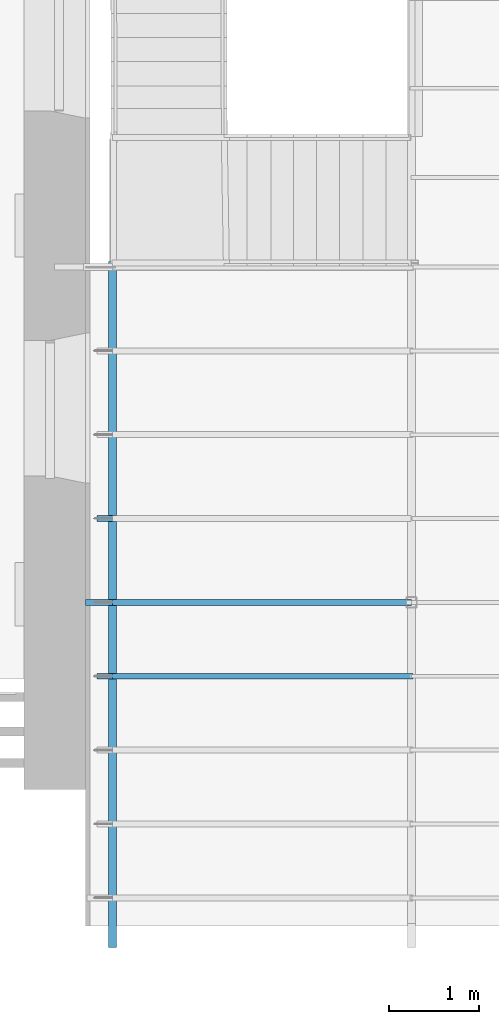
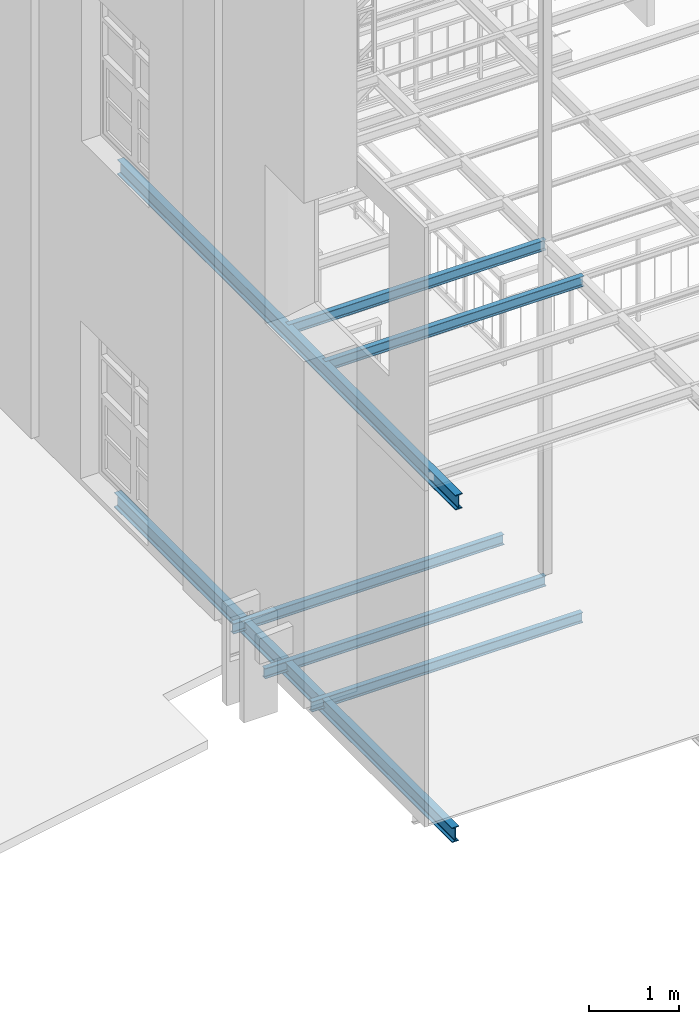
# One storey, part 2 of 33: 7 beams.
"""IFC2X3 building model written with IfcOpenShell, lengths in metres."""

from ifc_helpers import new_model, entity, si_unit, converted_unit, derived_unit, direction, frame, frame_2d, origin, place, context, subcontext, project, spatial, polyline, circle_curve, parameter, trimmed, segment, composite_curve, outline, extrude, material, type_object, element, save


model = new_model("IFC2X3")

# Units and contexts
model_context = context("Model", 3, precision=1e-05, world=origin(), true_north=direction((6.12303176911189e-17, 1.0)))
body_context = subcontext(model_context, "Body", "Model", "MODEL_VIEW")
ifc_project = project(units=[si_unit("LENGTHUNIT", "METRE"), si_unit("AREAUNIT", "SQUARE_METRE"), si_unit("VOLUMEUNIT", "CUBIC_METRE"), converted_unit("PLANEANGLEUNIT", "DEGREE", entity("IfcRatioMeasure", 0.0174532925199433), si_unit("PLANEANGLEUNIT", "RADIAN"), dimensions=[0, 0, 0, 0, 0, 0, 0]), si_unit("MASSUNIT", "GRAM", prefix="KILO"), derived_unit("MASSDENSITYUNIT", [(si_unit("MASSUNIT", "GRAM", prefix="KILO"), 1), (si_unit("LENGTHUNIT", "METRE"), -3)]), derived_unit("MOMENTOFINERTIAUNIT", [(si_unit("LENGTHUNIT", "METRE"), 4)]), si_unit("TIMEUNIT", "SECOND"), si_unit("FREQUENCYUNIT", "HERTZ"), si_unit("THERMODYNAMICTEMPERATUREUNIT", "DEGREE_CELSIUS"), derived_unit("THERMALTRANSMITTANCEUNIT", [(si_unit("MASSUNIT", "GRAM", prefix="KILO"), 1), (si_unit("THERMODYNAMICTEMPERATUREUNIT", "KELVIN"), -1), (si_unit("TIMEUNIT", "SECOND"), -3)]), derived_unit("VOLUMETRICFLOWRATEUNIT", [(si_unit("LENGTHUNIT", "METRE"), 3), (si_unit("TIMEUNIT", "SECOND"), -1)]), si_unit("ELECTRICCURRENTUNIT", "AMPERE"), si_unit("ELECTRICVOLTAGEUNIT", "VOLT"), si_unit("POWERUNIT", "WATT"), si_unit("FORCEUNIT", "NEWTON", prefix="KILO"), si_unit("ILLUMINANCEUNIT", "LUX"), si_unit("LUMINOUSFLUXUNIT", "LUMEN"), si_unit("LUMINOUSINTENSITYUNIT", "CANDELA"), derived_unit("USERDEFINED", [(si_unit("MASSUNIT", "GRAM", prefix="KILO"), -1), (si_unit("LENGTHUNIT", "METRE"), -2), (si_unit("TIMEUNIT", "SECOND"), 3), (si_unit("LUMINOUSFLUXUNIT", "LUMEN"), 1)]), derived_unit("LINEARVELOCITYUNIT", [(si_unit("LENGTHUNIT", "METRE"), 1), (si_unit("TIMEUNIT", "SECOND"), -1)]), si_unit("PRESSUREUNIT", "PASCAL"), derived_unit("USERDEFINED", [(si_unit("LENGTHUNIT", "METRE"), -2), (si_unit("MASSUNIT", "GRAM", prefix="KILO"), 1), (si_unit("TIMEUNIT", "SECOND"), -2)]), derived_unit("LINEARFORCEUNIT", [(si_unit("MASSUNIT", "GRAM", prefix="KILO"), 1), (si_unit("LENGTHUNIT", "METRE"), 1), (si_unit("TIMEUNIT", "SECOND"), -2), (si_unit("LENGTHUNIT", "METRE"), -1)]), derived_unit("PLANARFORCEUNIT", [(si_unit("MASSUNIT", "GRAM", prefix="KILO"), 1), (si_unit("LENGTHUNIT", "METRE"), 1), (si_unit("TIMEUNIT", "SECOND"), -2), (si_unit("LENGTHUNIT", "METRE"), -2)])], contexts=[model_context])

# Site, building, storey
site_placement = place(None, origin())
site = spatial("IfcSite", under=ifc_project, at=site_placement, Name="Superficie", CompositionType="ELEMENT")
building_placement = place(site_placement, origin())
building = spatial("IfcBuilding", under=site, at=building_placement, Name="Telegestiones", CompositionType="ELEMENT")
storey_placement = place(building_placement, frame((0.0, 0.0, 4.94)))
storey = spatial("IfcBuildingStorey", under=building, at=storey_placement, Name="Nivel 1_NPT", CompositionType="ELEMENT", Elevation=4.94)

# Beams
ifc_material = material(Name="Metal - Acero - 345 MPa")
beam_type_1 = type_object("IfcBeamType", Name="IPN - Secciones en I con alas cónicas:IPN 200", PredefinedType="NOTDEFINED")
beam_1_placement = place(storey_placement, frame((6.33481262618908, 1.48459406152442, 0.0), z_axis=(0.0, 0.0, 1.0), x_axis=(0.0, -1.0, 0.0)))
element("IfcBeam", 1, at=beam_1_placement, inside=storey, type_object=beam_type_1, material=ifc_material, Name="IPN - Secciones en I con alas cónicas:IPN 200", ObjectType="IPN - Secciones en I con alas cónicas:IPN 200", context=body_context, shape_type="SweptSolid", body=[
    extrude(outline(composite_curve([segment(polyline([(0.0957638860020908, -0.0450000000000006), (0.100000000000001, -0.0450000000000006)]), True, "CONTINUOUS"), segment(polyline([(0.100000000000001, -0.0450000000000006), (0.100000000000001, 0.0449999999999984)]), True, "CONTINUOUS"), segment(polyline([(0.100000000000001, 0.0449999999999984), (0.0957638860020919, 0.0449999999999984)]), True, "CONTINUOUS"), segment(trimmed(circle_curve(frame_2d((0.095763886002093, 0.0404999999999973), x_axis=(0.0, 1.0)), 0.00450000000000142), [parameter(0.0)], [parameter(82.0303896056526)], True, "PARAMETER"), True, "CONTINUOUS"), segment(polyline([(0.0913073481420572, 0.0411239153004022), (0.0869794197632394, 0.01021014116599)]), True, "CONTINUOUS"), segment(trimmed(circle_curve(frame_2d((0.0795518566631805, 0.0112499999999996), x_axis=(0.990341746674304, -0.138647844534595)), 0.00750000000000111), [parameter(277.96961039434)], [parameter(0.0)], True, "PARAMETER"), False, "CONTINUOUS"), segment(polyline([(0.0795518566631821, 0.00374999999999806), (-0.079551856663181, 0.00374999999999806)]), True, "CONTINUOUS"), segment(trimmed(circle_curve(frame_2d((-0.07955185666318, 0.0112500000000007), x_axis=(0.0, -1.0)), 0.00750000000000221), [parameter(277.96961039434)], [parameter(0.0)], True, "PARAMETER"), False, "CONTINUOUS"), segment(polyline([(-0.0869794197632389, 0.01021014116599), (-0.0913073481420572, 0.0411239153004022)]), True, "CONTINUOUS"), segment(trimmed(circle_curve(frame_2d((-0.0957638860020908, 0.0404999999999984), x_axis=(0.990341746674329, 0.138647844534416)), 0.00450000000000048), [parameter(0.0)], [parameter(82.0303896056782)], True, "PARAMETER"), True, "CONTINUOUS"), segment(polyline([(-0.0957638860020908, 0.0449999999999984), (-0.0999999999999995, 0.0449999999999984)]), True, "CONTINUOUS"), segment(polyline([(-0.0999999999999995, 0.0449999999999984), (-0.0999999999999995, -0.0450000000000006)]), True, "CONTINUOUS"), segment(polyline([(-0.0999999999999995, -0.0450000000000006), (-0.0957638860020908, -0.0450000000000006)]), True, "CONTINUOUS"), segment(trimmed(circle_curve(frame_2d((-0.0957638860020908, -0.0405000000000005), x_axis=(0.0, -1.0)), 0.00450000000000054), [parameter(0.0)], [parameter(82.0303896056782)], True, "PARAMETER"), True, "CONTINUOUS"), segment(polyline([(-0.0913073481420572, -0.0411239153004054), (-0.0869794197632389, -0.0102101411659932)]), True, "CONTINUOUS"), segment(trimmed(circle_curve(frame_2d((-0.07955185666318, -0.0112500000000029), x_axis=(-0.990341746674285, 0.138647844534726)), 0.00750000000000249), [parameter(277.969610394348)], [parameter(0.0)], True, "PARAMETER"), False, "CONTINUOUS"), segment(polyline([(-0.079551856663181, -0.00375000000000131), (0.079551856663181, -0.00375000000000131)]), True, "CONTINUOUS"), segment(trimmed(circle_curve(frame_2d((0.0795518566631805, -0.0112500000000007), x_axis=(0.0, 1.0)), 0.0075000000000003), [parameter(277.969610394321)], [parameter(0.0)], True, "PARAMETER"), False, "CONTINUOUS"), segment(polyline([(0.0869794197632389, -0.0102101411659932), (0.0913073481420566, -0.0411239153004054)]), True, "CONTINUOUS"), segment(trimmed(circle_curve(frame_2d((0.0957638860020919, -0.0404999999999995), x_axis=(-0.9903417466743, -0.138647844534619)), 0.00450000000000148), [parameter(0.0)], [parameter(82.0303896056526)], True, "PARAMETER"), True, "CONTINUOUS")], self_intersect=False)), frame((-0.0595062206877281, 0.0, -0.130000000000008), z_axis=(1.0, 0.0, 0.0), x_axis=(0.0, 0.0, -1.0)), (0.0, 0.0, 1.0), 7.51522731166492),
])
beam_2_placement = place(storey_placement, frame((6.33481262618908, 1.48459406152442, 4.56), z_axis=(0.0, 0.0, 1.0), x_axis=(0.0, -1.0, 0.0)))
element("IfcBeam", 2, at=beam_2_placement, inside=storey, type_object=beam_type_1, material=ifc_material, Name="IPN - Secciones en I con alas cónicas:IPN 200", ObjectType="IPN - Secciones en I con alas cónicas:IPN 200", context=body_context, shape_type="SweptSolid", body=[
    extrude(outline(composite_curve([segment(polyline([(0.0957638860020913, -0.0450000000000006), (0.100000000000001, -0.0450000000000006)]), True, "CONTINUOUS"), segment(polyline([(0.100000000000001, -0.0450000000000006), (0.100000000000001, 0.0449999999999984)]), True, "CONTINUOUS"), segment(polyline([(0.100000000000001, 0.0449999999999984), (0.0957638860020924, 0.0449999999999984)]), True, "CONTINUOUS"), segment(trimmed(circle_curve(frame_2d((0.0957638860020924, 0.0404999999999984), x_axis=(0.0, 1.0)), 0.00450000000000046), [parameter(0.0)], [parameter(82.0303896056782)], True, "PARAMETER"), True, "CONTINUOUS"), segment(polyline([(0.0913073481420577, 0.0411239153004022), (0.0869794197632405, 0.01021014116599)]), True, "CONTINUOUS"), segment(trimmed(circle_curve(frame_2d((0.0795518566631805, 0.0112500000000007), x_axis=(0.990341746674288, -0.138647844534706)), 0.00750000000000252), [parameter(277.969610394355)], [parameter(0.0)], True, "PARAMETER"), False, "CONTINUOUS"), segment(polyline([(0.0795518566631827, 0.00374999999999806), (-0.0795518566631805, 0.00374999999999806)]), True, "CONTINUOUS"), segment(trimmed(circle_curve(frame_2d((-0.0795518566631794, 0.0112500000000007), x_axis=(0.0, -1.0)), 0.00750000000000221), [parameter(277.96961039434)], [parameter(0.0)], True, "PARAMETER"), False, "CONTINUOUS"), segment(polyline([(-0.0869794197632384, 0.01021014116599), (-0.0913073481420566, 0.0411239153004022)]), True, "CONTINUOUS"), segment(trimmed(circle_curve(frame_2d((-0.0957638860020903, 0.0404999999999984), x_axis=(0.990341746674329, 0.138647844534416)), 0.00450000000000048), [parameter(0.0)], [parameter(82.0303896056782)], True, "PARAMETER"), True, "CONTINUOUS"), segment(polyline([(-0.0957638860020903, 0.0449999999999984), (-0.0999999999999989, 0.0449999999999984)]), True, "CONTINUOUS"), segment(polyline([(-0.0999999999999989, 0.0449999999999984), (-0.0999999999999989, -0.0450000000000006)]), True, "CONTINUOUS"), segment(polyline([(-0.0999999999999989, -0.0450000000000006), (-0.0957638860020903, -0.0450000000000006)]), True, "CONTINUOUS"), segment(trimmed(circle_curve(frame_2d((-0.0957638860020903, -0.0405000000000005), x_axis=(0.0, -1.0)), 0.00450000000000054), [parameter(0.0)], [parameter(82.0303896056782)], True, "PARAMETER"), True, "CONTINUOUS"), segment(polyline([(-0.0913073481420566, -0.0411239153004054), (-0.0869794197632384, -0.0102101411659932)]), True, "CONTINUOUS"), segment(trimmed(circle_curve(frame_2d((-0.0795518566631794, -0.0112500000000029), x_axis=(-0.990341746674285, 0.138647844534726)), 0.00750000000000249), [parameter(277.969610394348)], [parameter(0.0)], True, "PARAMETER"), False, "CONTINUOUS"), segment(polyline([(-0.0795518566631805, -0.00375000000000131), (0.0795518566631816, -0.00375000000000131)]), True, "CONTINUOUS"), segment(trimmed(circle_curve(frame_2d((0.0795518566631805, -0.0112500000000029), x_axis=(0.0, 1.0)), 0.00750000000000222), [parameter(277.96961039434)], [parameter(0.0)], True, "PARAMETER"), False, "CONTINUOUS"), segment(polyline([(0.0869794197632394, -0.0102101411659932), (0.0913073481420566, -0.0411239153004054)]), True, "CONTINUOUS"), segment(trimmed(circle_curve(frame_2d((0.0957638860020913, -0.0405000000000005), x_axis=(-0.990341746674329, -0.138647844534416)), 0.00450000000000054), [parameter(0.0)], [parameter(82.0303896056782)], True, "PARAMETER"), True, "CONTINUOUS")], self_intersect=False)), frame((0.00849341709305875, 0.0, -0.130000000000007), z_axis=(1.0, 0.0, 0.0), x_axis=(0.0, 0.0, -1.0)), (0.0, 0.0, 1.0), 7.52197435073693),
])
beam_type_2 = type_object("IfcBeamType", Name="IPN - Secciones en I con alas cónicas:IPN 140", PredefinedType="NOTDEFINED")
beam_3_placement = place(storey_placement, frame((6.30181262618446, -2.22639277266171, 0.0)))
element("IfcBeam", 3, at=beam_3_placement, inside=storey, type_object=beam_type_2, material=ifc_material, Name="IPN - Secciones en I con alas cónicas:IPN 140", ObjectType="IPN - Secciones en I con alas cónicas:IPN 140", context=body_context, shape_type="SweptSolid", body=[
    extrude(outline(composite_curve([segment(polyline([(0.0666671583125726, -0.0330000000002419), (0.0699999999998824, -0.0330000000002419)]), True, "CONTINUOUS"), segment(polyline([(0.0699999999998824, -0.0330000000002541), (0.0700000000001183, 0.0329999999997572)]), True, "CONTINUOUS"), segment(polyline([(0.0700000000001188, 0.0329999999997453), (0.0666671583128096, 0.0329999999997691)]), True, "CONTINUOUS"), segment(trimmed(circle_curve(frame_2d((0.0666671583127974, 0.0295999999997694), x_axis=(0.0, 1.0)), 0.00339999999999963), [parameter(0.0)], [parameter(82.0303896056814)], True, "PARAMETER"), True, "CONTINUOUS"), segment(polyline([(0.0632999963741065, 0.030071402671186), (0.0601763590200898, 0.00775970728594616)]), True, "CONTINUOUS"), segment(trimmed(circle_curve(frame_2d((0.0545314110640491, 0.0085499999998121), x_axis=(0.990341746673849, -0.138647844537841)), 0.0056999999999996), [parameter(277.969610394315)], [parameter(0.0)], True, "PARAMETER"), False, "CONTINUOUS"), segment(polyline([(0.0545314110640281, 0.00284999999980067), (-0.0545314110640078, 0.00285000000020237)]), True, "CONTINUOUS"), segment(trimmed(circle_curve(frame_2d((-0.0545314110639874, 0.00855000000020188), x_axis=(0.0, -1.0)), 0.00569999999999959), [parameter(277.969610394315)], [parameter(0.0)], True, "PARAMETER"), False, "CONTINUOUS"), segment(polyline([(-0.0601763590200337, 0.00775970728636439), (-0.0632999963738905, 0.0300714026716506)]), True, "CONTINUOUS"), segment(trimmed(circle_curve(frame_2d((-0.0666671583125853, 0.0296000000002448), x_axis=(0.990341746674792, 0.13864784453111)), 0.00340000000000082), [parameter(0.0)], [parameter(82.0303896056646)], True, "PARAMETER"), True, "CONTINUOUS"), segment(polyline([(-0.0666671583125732, 0.0330000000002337), (-0.0699999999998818, 0.0330000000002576)]), True, "CONTINUOUS"), segment(polyline([(-0.0699999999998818, 0.0330000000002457), (-0.0700000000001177, -0.0329999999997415)]), True, "CONTINUOUS"), segment(polyline([(-0.0700000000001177, -0.0329999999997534), (-0.066667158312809, -0.0329999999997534)]), True, "CONTINUOUS"), segment(trimmed(circle_curve(frame_2d((-0.0666671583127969, -0.0295999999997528), x_axis=(0.0, -1.0)), 0.00340000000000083), [parameter(0.0)], [parameter(82.0303896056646)], True, "PARAMETER"), True, "CONTINUOUS"), segment(polyline([(-0.0632999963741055, -0.0300714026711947), (-0.0601763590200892, -0.00775970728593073)]), True, "CONTINUOUS"), segment(trimmed(circle_curve(frame_2d((-0.0545314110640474, -0.00854999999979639), x_axis=(-0.990341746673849, 0.138647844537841)), 0.00569999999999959), [parameter(277.969610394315)], [parameter(0.0)], True, "PARAMETER"), False, "CONTINUOUS"), segment(polyline([(-0.054531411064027, -0.00284999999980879), (0.0545314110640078, -0.00285000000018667)]), True, "CONTINUOUS"), segment(trimmed(circle_curve(frame_2d((0.0545314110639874, -0.00855000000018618), x_axis=(0.0, 1.0)), 0.0056999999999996), [parameter(277.969610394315)], [parameter(0.0)], True, "PARAMETER"), False, "CONTINUOUS"), segment(polyline([(0.0601763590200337, -0.00775970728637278), (0.0632999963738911, -0.0300714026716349)]), True, "CONTINUOUS"), segment(trimmed(circle_curve(frame_2d((0.0666671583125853, -0.0296000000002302), x_axis=(-0.990341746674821, -0.138647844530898)), 0.00340000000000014), [parameter(0.0)], [parameter(82.0303896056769)], True, "PARAMETER"), True, "CONTINUOUS")], self_intersect=False)), frame((-0.265999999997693, 0.0, -0.100000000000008), z_axis=(1.0, 0.0, 0.0), x_axis=(0.0, 0.0, -1.0)), (0.0, 0.0, 1.0), 3.609),
])
beam_4_placement = place(storey_placement, frame((6.16481262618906, -1.29864606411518, 0.0)))
element("IfcBeam", 4, at=beam_4_placement, inside=storey, type_object=beam_type_2, material=ifc_material, Name="IPN - Secciones en I con alas cónicas:IPN 140", ObjectType="IPN - Secciones en I con alas cónicas:IPN 140", context=body_context, shape_type="SweptSolid", body=[
    extrude(outline(composite_curve([segment(polyline([(0.0666671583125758, -0.033000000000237), (0.0699999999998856, -0.033000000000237)]), True, "CONTINUOUS"), segment(polyline([(0.0699999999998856, -0.0330000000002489), (0.0700000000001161, 0.0329999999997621)]), True, "CONTINUOUS"), segment(polyline([(0.0700000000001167, 0.0329999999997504), (0.0666671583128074, 0.0329999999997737)]), True, "CONTINUOUS"), segment(trimmed(circle_curve(frame_2d((0.0666671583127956, 0.029599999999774), x_axis=(0.0, 1.0)), 0.00339999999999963), [parameter(0.0)], [parameter(82.0303896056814)], True, "PARAMETER"), True, "CONTINUOUS"), segment(polyline([(0.0632999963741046, 0.0300714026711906), (0.0601763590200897, 0.00775970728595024)]), True, "CONTINUOUS"), segment(trimmed(circle_curve(frame_2d((0.0545314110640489, 0.00854999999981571), x_axis=(0.99034174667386, -0.138647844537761)), 0.0056999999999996), [parameter(277.969610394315)], [parameter(0.0)], True, "PARAMETER"), False, "CONTINUOUS"), segment(polyline([(0.0545314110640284, 0.00284999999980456), (-0.0545314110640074, 0.00285000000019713)]), True, "CONTINUOUS"), segment(trimmed(circle_curve(frame_2d((-0.0545314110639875, 0.00855000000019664), x_axis=(0.0, -1.0)), 0.00569999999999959), [parameter(277.969610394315)], [parameter(0.0)], True, "PARAMETER"), False, "CONTINUOUS"), segment(polyline([(-0.0601763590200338, 0.00775970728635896), (-0.0632999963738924, 0.0300714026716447)]), True, "CONTINUOUS"), segment(trimmed(circle_curve(frame_2d((-0.0666671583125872, 0.0296000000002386), x_axis=(0.99034174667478, 0.138647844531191)), 0.00340000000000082), [parameter(0.0)], [parameter(82.0303896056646)], True, "PARAMETER"), True, "CONTINUOUS"), segment(polyline([(-0.0666671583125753, 0.0330000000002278), (-0.069999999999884, 0.0330000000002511)]), True, "CONTINUOUS"), segment(polyline([(-0.069999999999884, 0.0330000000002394), (-0.0700000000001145, -0.032999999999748)]), True, "CONTINUOUS"), segment(polyline([(-0.0700000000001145, -0.0329999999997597), (-0.0666671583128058, -0.0329999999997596)]), True, "CONTINUOUS"), segment(trimmed(circle_curve(frame_2d((-0.0666671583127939, -0.0295999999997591), x_axis=(0.0, -1.0)), 0.00340000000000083), [parameter(0.0)], [parameter(82.0303896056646)], True, "PARAMETER"), True, "CONTINUOUS"), segment(polyline([(-0.0632999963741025, -0.0300714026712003), (-0.060176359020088, -0.00775970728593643)]), True, "CONTINUOUS"), segment(trimmed(circle_curve(frame_2d((-0.0545314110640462, -0.00854999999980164), x_axis=(-0.99034174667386, 0.138647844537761)), 0.00569999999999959), [parameter(277.969610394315)], [parameter(0.0)], True, "PARAMETER"), False, "CONTINUOUS"), segment(polyline([(-0.0545314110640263, -0.00284999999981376), (0.0545314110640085, -0.00285000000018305)]), True, "CONTINUOUS"), segment(trimmed(circle_curve(frame_2d((0.0545314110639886, -0.00855000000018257), x_axis=(0.0, 1.0)), 0.0056999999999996), [parameter(277.969610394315)], [parameter(0.0)], True, "PARAMETER"), False, "CONTINUOUS"), segment(polyline([(0.0601763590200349, -0.00775970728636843), (0.0632999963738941, -0.0300714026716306)]), True, "CONTINUOUS"), segment(trimmed(circle_curve(frame_2d((0.0666671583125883, -0.0296000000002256), x_axis=(-0.99034174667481, -0.138647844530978)), 0.00340000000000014), [parameter(0.0)], [parameter(82.0303896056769)], True, "PARAMETER"), True, "CONTINUOUS")], self_intersect=False)), frame((0.0, 0.0, -0.100000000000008), z_axis=(1.0, 0.0, 0.0), x_axis=(0.0, 0.0, -1.0)), (0.0, 0.0, 1.0), 3.476),
])
beam_5_placement = place(storey_placement, frame((6.16481262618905, -3.04414277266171, 0.0)))
element("IfcBeam", 5, at=beam_5_placement, inside=storey, type_object=beam_type_2, material=ifc_material, Name="IPN - Secciones en I con alas cónicas:IPN 140", ObjectType="IPN - Secciones en I con alas cónicas:IPN 140", context=body_context, shape_type="SweptSolid", body=[
    extrude(outline(composite_curve([segment(polyline([(0.0666671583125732, -0.0330000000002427), (0.0699999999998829, -0.0330000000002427)]), True, "CONTINUOUS"), segment(polyline([(0.0699999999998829, -0.0330000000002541), (0.0700000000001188, 0.0329999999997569)]), True, "CONTINUOUS"), segment(polyline([(0.0700000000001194, 0.032999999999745), (0.0666671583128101, 0.0329999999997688)]), True, "CONTINUOUS"), segment(trimmed(circle_curve(frame_2d((0.0666671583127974, 0.0295999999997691), x_axis=(0.0, 1.0)), 0.00339999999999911), [parameter(0.0)], [parameter(82.0303896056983)], True, "PARAMETER"), True, "CONTINUOUS"), segment(polyline([(0.0632999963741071, 0.030071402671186), (0.0601763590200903, 0.00775970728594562)]), True, "CONTINUOUS"), segment(trimmed(circle_curve(frame_2d((0.0545314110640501, 0.00854999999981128), x_axis=(0.990341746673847, -0.138647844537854)), 0.00569999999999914), [parameter(277.969610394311)], [parameter(0.0)], True, "PARAMETER"), False, "CONTINUOUS"), segment(polyline([(0.0545314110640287, 0.00284999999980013), (-0.0545314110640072, 0.00285000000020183)]), True, "CONTINUOUS"), segment(trimmed(circle_curve(frame_2d((-0.0545314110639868, 0.00855000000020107), x_axis=(0.0, -1.0)), 0.00569999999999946), [parameter(277.969610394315)], [parameter(0.0)], True, "PARAMETER"), False, "CONTINUOUS"), segment(polyline([(-0.0601763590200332, 0.00775970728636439), (-0.06329999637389, 0.0300714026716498)]), True, "CONTINUOUS"), segment(trimmed(circle_curve(frame_2d((-0.0666671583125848, 0.0296000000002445), x_axis=(0.990341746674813, 0.138647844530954)), 0.0034000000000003), [parameter(0.0)], [parameter(82.0303896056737)], True, "PARAMETER"), True, "CONTINUOUS"), segment(polyline([(-0.0666671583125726, 0.0330000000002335), (-0.0699999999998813, 0.0330000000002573)]), True, "CONTINUOUS"), segment(polyline([(-0.0699999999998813, 0.0330000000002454), (-0.0700000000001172, -0.0329999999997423)]), True, "CONTINUOUS"), segment(polyline([(-0.0700000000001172, -0.0329999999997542), (-0.0666671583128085, -0.0329999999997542)]), True, "CONTINUOUS"), segment(trimmed(circle_curve(frame_2d((-0.0666671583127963, -0.0295999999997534), x_axis=(0.0, -1.0)), 0.0034000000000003), [parameter(0.0)], [parameter(82.0303896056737)], True, "PARAMETER"), True, "CONTINUOUS"), segment(polyline([(-0.0632999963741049, -0.0300714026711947), (-0.0601763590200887, -0.00775970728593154)]), True, "CONTINUOUS"), segment(trimmed(circle_curve(frame_2d((-0.054531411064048, -0.00854999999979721), x_axis=(-0.990341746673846, 0.138647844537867)), 0.00569999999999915), [parameter(277.969610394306)], [parameter(0.0)], True, "PARAMETER"), False, "CONTINUOUS"), segment(polyline([(-0.0545314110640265, -0.00284999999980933), (0.0545314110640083, -0.00285000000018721)]), True, "CONTINUOUS"), segment(trimmed(circle_curve(frame_2d((0.0545314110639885, -0.00855000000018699), x_axis=(0.0, 1.0)), 0.00569999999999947), [parameter(277.969610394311)], [parameter(0.0)], True, "PARAMETER"), False, "CONTINUOUS"), segment(polyline([(0.0601763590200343, -0.00775970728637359), (0.0632999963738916, -0.0300714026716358)]), True, "CONTINUOUS"), segment(trimmed(circle_curve(frame_2d((0.0666671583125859, -0.0296000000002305), x_axis=(-0.990341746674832, -0.13864784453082)), 0.00339999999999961), [parameter(0.0)], [parameter(82.0303896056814)], True, "PARAMETER"), True, "CONTINUOUS")], self_intersect=False)), frame((0.0, 0.0, -0.100000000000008), z_axis=(1.0, 0.0, 0.0), x_axis=(0.0, 0.0, -1.0)), (0.0, 0.0, 1.0), 3.479),
])
beam_6_placement = place(storey_placement, frame((6.33481262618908, -2.22639277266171, 4.56)))
element("IfcBeam", 6, at=beam_6_placement, inside=storey, type_object=beam_type_2, material=ifc_material, Name="IPN - Secciones en I con alas cónicas:IPN 140", ObjectType="IPN - Secciones en I con alas cónicas:IPN 140", context=body_context, shape_type="SweptSolid", body=[
    extrude(outline(composite_curve([segment(polyline([(0.0666671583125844, -0.0330000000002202), (0.0699999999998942, -0.0330000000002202)]), True, "CONTINUOUS"), segment(polyline([(0.0699999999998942, -0.033000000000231), (0.0700000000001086, 0.0329999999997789)]), True, "CONTINUOUS"), segment(polyline([(0.0700000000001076, 0.032999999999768), (0.0666671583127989, 0.0329999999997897)]), True, "CONTINUOUS"), segment(trimmed(circle_curve(frame_2d((0.0666671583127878, 0.0295999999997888), x_axis=(0.0, 1.0)), 0.00340000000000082), [parameter(0.0)], [parameter(82.0303896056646)], True, "PARAMETER"), True, "CONTINUOUS"), segment(polyline([(0.0632999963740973, 0.0300714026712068), (0.0601763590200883, 0.00775970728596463)]), True, "CONTINUOUS"), segment(trimmed(circle_curve(frame_2d((0.0545314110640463, 0.00854999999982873), x_axis=(0.990341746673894, -0.13864784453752)), 0.0056999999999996), [parameter(277.969610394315)], [parameter(0.0)], True, "PARAMETER"), False, "CONTINUOUS"), segment(polyline([(0.0545314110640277, 0.00284999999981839), (-0.0545314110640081, 0.00285000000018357)]), True, "CONTINUOUS"), segment(trimmed(circle_curve(frame_2d((-0.0545314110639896, 0.00855000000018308), x_axis=(0.0, -1.0)), 0.00569999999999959), [parameter(277.969610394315)], [parameter(0.0)], True, "PARAMETER"), False, "CONTINUOUS"), segment(polyline([(-0.0601763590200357, 0.00775970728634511), (-0.0632999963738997, 0.030071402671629)]), True, "CONTINUOUS"), segment(trimmed(circle_curve(frame_2d((-0.0666671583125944, 0.0296000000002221), x_axis=(0.990341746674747, 0.138647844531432)), 0.00340000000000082), [parameter(0.0)], [parameter(82.0303896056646)], True, "PARAMETER"), True, "CONTINUOUS"), segment(polyline([(-0.0666671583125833, 0.0330000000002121), (-0.069999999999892, 0.0330000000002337)]), True, "CONTINUOUS"), segment(polyline([(-0.069999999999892, 0.0330000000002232), (-0.0700000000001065, -0.0329999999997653)]), True, "CONTINUOUS"), segment(polyline([(-0.0700000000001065, -0.0329999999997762), (-0.0666671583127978, -0.0329999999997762)]), True, "CONTINUOUS"), segment(trimmed(circle_curve(frame_2d((-0.0666671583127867, -0.0295999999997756), x_axis=(0.0, -1.0)), 0.00340000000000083), [parameter(0.0)], [parameter(82.0303896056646)], True, "PARAMETER"), True, "CONTINUOUS"), segment(polyline([(-0.0632999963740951, -0.030071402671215), (-0.0601763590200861, -0.00775970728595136)]), True, "CONTINUOUS"), segment(trimmed(circle_curve(frame_2d((-0.0545314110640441, -0.0085499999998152), x_axis=(-0.990341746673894, 0.13864784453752)), 0.00569999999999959), [parameter(277.969610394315)], [parameter(0.0)], True, "PARAMETER"), False, "CONTINUOUS"), segment(polyline([(-0.0545314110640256, -0.00284999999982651), (0.0545314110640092, -0.00285000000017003)]), True, "CONTINUOUS"), segment(trimmed(circle_curve(frame_2d((0.0545314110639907, -0.00855000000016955), x_axis=(0.0, 1.0)), 0.0056999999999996), [parameter(277.969610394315)], [parameter(0.0)], True, "PARAMETER"), False, "CONTINUOUS"), segment(polyline([(0.0601763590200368, -0.00775970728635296), (0.0632999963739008, -0.0300714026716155)]), True, "CONTINUOUS"), segment(trimmed(circle_curve(frame_2d((0.0666671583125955, -0.0296000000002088), x_axis=(-0.990341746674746, -0.138647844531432)), 0.00340000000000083), [parameter(0.0)], [parameter(82.0303896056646)], True, "PARAMETER"), True, "CONTINUOUS")], self_intersect=False)), frame((0.0, 0.0, -0.100000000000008), z_axis=(1.0, 0.0, 0.0), x_axis=(0.0, 0.0, -1.0)), (0.0, 0.0, 1.0), 3.31),
])
beam_7_placement = place(storey_placement, frame((6.33481262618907, -3.04414277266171, 4.56)))
element("IfcBeam", 7, at=beam_7_placement, inside=storey, type_object=beam_type_2, material=ifc_material, Name="IPN - Secciones en I con alas cónicas:IPN 140", ObjectType="IPN - Secciones en I con alas cónicas:IPN 140", context=body_context, shape_type="SweptSolid", body=[
    extrude(outline(composite_curve([segment(polyline([(0.066667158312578, -0.0330000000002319), (0.0699999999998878, -0.0330000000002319)]), True, "CONTINUOUS"), segment(polyline([(0.0699999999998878, -0.0330000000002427), (0.0700000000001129, 0.0329999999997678)]), True, "CONTINUOUS"), segment(polyline([(0.0700000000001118, 0.0329999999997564), (0.0666671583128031, 0.0329999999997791)]), True, "CONTINUOUS"), segment(trimmed(circle_curve(frame_2d((0.0666671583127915, 0.0295999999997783), x_axis=(0.0, 1.0)), 0.0034000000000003), [parameter(0.0)], [parameter(82.0303896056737)], True, "PARAMETER"), True, "CONTINUOUS"), segment(polyline([(0.0632999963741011, 0.0300714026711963), (0.0601763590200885, 0.00775970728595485)]), True, "CONTINUOUS"), segment(trimmed(circle_curve(frame_2d((0.0545314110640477, 0.0085499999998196), x_axis=(0.990341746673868, -0.138647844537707)), 0.00569999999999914), [parameter(277.969610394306)], [parameter(0.0)], True, "PARAMETER"), False, "CONTINUOUS"), segment(polyline([(0.0545314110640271, 0.00284999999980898), (-0.0545314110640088, 0.00285000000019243)]), True, "CONTINUOUS"), segment(trimmed(circle_curve(frame_2d((-0.0545314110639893, 0.00855000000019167), x_axis=(0.0, -1.0)), 0.00569999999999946), [parameter(277.969610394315)], [parameter(0.0)], True, "PARAMETER"), False, "CONTINUOUS"), segment(polyline([(-0.0601763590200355, 0.00775970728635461), (-0.0632999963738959, 0.030071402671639)]), True, "CONTINUOUS"), segment(trimmed(circle_curve(frame_2d((-0.0666671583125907, 0.0296000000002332), x_axis=(0.990341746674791, 0.138647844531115)), 0.0034000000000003), [parameter(0.0)], [parameter(82.0303896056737)], True, "PARAMETER"), True, "CONTINUOUS"), segment(polyline([(-0.0666671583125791, 0.0330000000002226), (-0.0699999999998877, 0.0330000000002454)]), True, "CONTINUOUS"), segment(polyline([(-0.0699999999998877, 0.033000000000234), (-0.0700000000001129, -0.0329999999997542)]), True, "CONTINUOUS"), segment(polyline([(-0.0700000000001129, -0.0329999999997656), (-0.0666671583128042, -0.0329999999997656)]), True, "CONTINUOUS"), segment(trimmed(circle_curve(frame_2d((-0.0666671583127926, -0.0295999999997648), x_axis=(0.0, -1.0)), 0.0034000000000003), [parameter(0.0)], [parameter(82.0303896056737)], True, "PARAMETER"), True, "CONTINUOUS"), segment(polyline([(-0.0632999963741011, -0.0300714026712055), (-0.0601763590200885, -0.00775970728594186)]), True, "CONTINUOUS"), segment(trimmed(circle_curve(frame_2d((-0.0545314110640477, -0.00854999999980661), x_axis=(-0.990341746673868, 0.138647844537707)), 0.00569999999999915), [parameter(277.969610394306)], [parameter(0.0)], True, "PARAMETER"), False, "CONTINUOUS"), segment(polyline([(-0.0545314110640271, -0.00284999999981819), (0.0545314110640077, -0.00285000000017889)]), True, "CONTINUOUS"), segment(trimmed(circle_curve(frame_2d((0.0545314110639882, -0.00855000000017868), x_axis=(0.0, 1.0)), 0.00569999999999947), [parameter(277.969610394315)], [parameter(0.0)], True, "PARAMETER"), False, "CONTINUOUS"), segment(polyline([(0.0601763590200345, -0.00775970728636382), (0.0632999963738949, -0.030071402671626)]), True, "CONTINUOUS"), segment(trimmed(circle_curve(frame_2d((0.0666671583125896, -0.0296000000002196), x_axis=(-0.990341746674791, -0.138647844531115)), 0.0034000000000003), [parameter(0.0)], [parameter(82.0303896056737)], True, "PARAMETER"), True, "CONTINUOUS")], self_intersect=False)), frame((0.0, 0.0, -0.100000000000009), z_axis=(1.0, 0.0, 0.0), x_axis=(0.0, 0.0, -1.0)), (0.0, 0.0, 1.0), 3.325),
])

save(model, "model.ifc")
